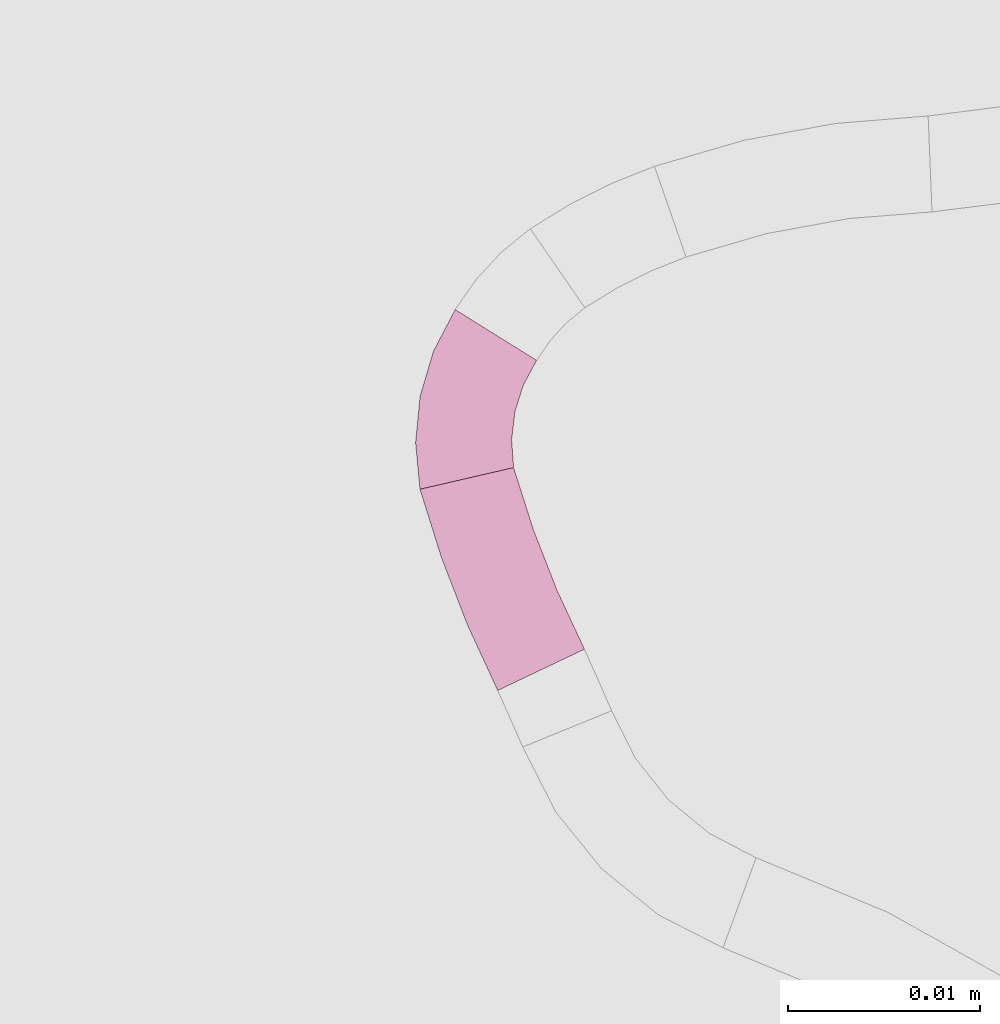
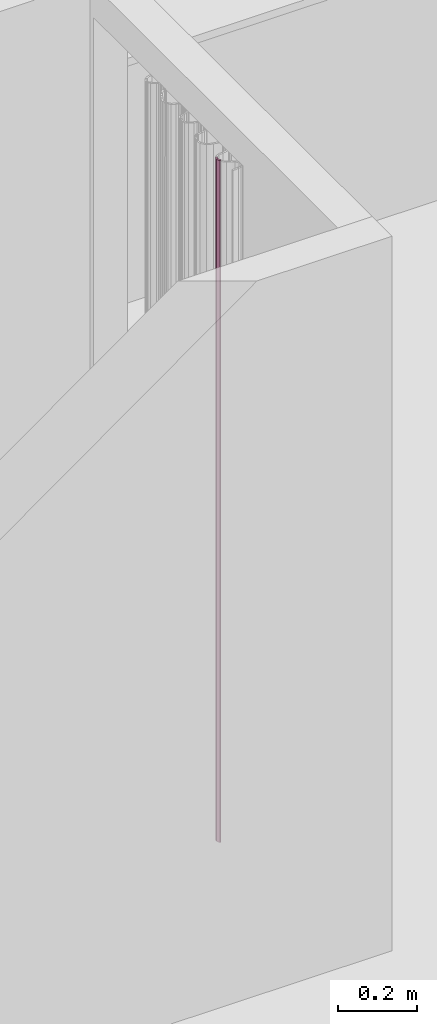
# One storey, part 287 of 418: 2 furnishings.
"""IFC2X3 building model written with IfcOpenShell, lengths in millimetres."""

from ifc_helpers import new_model, entity, si_unit, converted_unit, derived_unit, money_unit, point, direction, frame, frame_2d, origin_with_axes, place, context, subcontext, project, spatial, polyline, circle_curve, parameter, trimmed, segment, composite_curve, outline, extrude, material, type_object, element, save


model = new_model("IFC2X3")

# Units and contexts
model_context = context("Model", 3, precision=0.01, world=origin_with_axes(), true_north=direction((0.0, 1.0)))
body_context = subcontext(model_context, "Body", "Model", "MODEL_VIEW")
ifc_project = project(units=[si_unit("LENGTHUNIT", "METRE", prefix="MILLI"), si_unit("AREAUNIT", "SQUARE_METRE"), si_unit("VOLUMEUNIT", "CUBIC_METRE"), converted_unit("PLANEANGLEUNIT", "DEGREE", entity("IfcPlaneAngleMeasure", 0.0174532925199), si_unit("PLANEANGLEUNIT", "RADIAN"), dimensions=[0, 0, 0, 0, 0, 0, 0]), si_unit("SOLIDANGLEUNIT", "STERADIAN"), money_unit("EUR"), converted_unit("TIMEUNIT", "Year", entity("IfcTimeMeasure", 31556926.0), si_unit("TIMEUNIT", "SECOND"), dimensions=[0, 0, 1, 0, 0, 0, 0]), si_unit("MASSUNIT", "GRAM", prefix="KILO"), si_unit("THERMODYNAMICTEMPERATUREUNIT", "DEGREE_CELSIUS"), si_unit("LUMINOUSINTENSITYUNIT", "LUMEN"), si_unit("ENERGYUNIT", "JOULE", prefix="MEGA"), derived_unit("THERMALCONDUCTANCEUNIT", [(si_unit("POWERUNIT", "WATT"), 1), (si_unit("LENGTHUNIT", "METRE"), -1), (si_unit("THERMODYNAMICTEMPERATUREUNIT", "KELVIN"), -1)]), derived_unit("SPECIFICHEATCAPACITYUNIT", [(si_unit("ENERGYUNIT", "JOULE"), 1), (si_unit("MASSUNIT", "GRAM", prefix="KILO"), -1), (si_unit("THERMODYNAMICTEMPERATUREUNIT", "KELVIN"), -1)]), derived_unit("MASSDENSITYUNIT", [(si_unit("MASSUNIT", "GRAM", prefix="KILO"), 1), (si_unit("VOLUMEUNIT", "CUBIC_METRE"), -1)])], contexts=[model_context])

# Site, building, storey
site_placement = place(None, origin_with_axes())
site = spatial("IfcSite", under=ifc_project, at=site_placement, Name="Paldiski mnt 245/1, Tallinn, Harjumaa", CompositionType="COMPLEX")
building_placement = place(site_placement, origin_with_axes())
building = spatial("IfcBuilding", under=site, at=building_placement, Name="RKAS Hoone üldnimetus (kasutust iseloomustav) -> IFC Project Manager -> SOLIBRI", CompositionType="ELEMENT")
storey_placement = place(building_placement, origin_with_axes())
storey = spatial("IfcBuildingStorey", under=building, at=storey_placement, Name="Esimene korrus", CompositionType="ELEMENT", Elevation=0.0)

# Furnishings
ifc_material = material(Name="KON-00_GENEERILINE - KONSTRUKTSIOON")
furniture_type = type_object("IfcFurnitureType", Name="KON-00_GENEERILINE - KONSTRUKTSIOON 5", AssemblyPlace="NOTDEFINED")
furnishing_1_placement = place(storey_placement, frame((-44064.9338267, -2271.71824978, 0.0), z_axis=(0.0, 0.0, 1.0), x_axis=(0.269330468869, -0.963047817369, 0.0)))
element("IfcFurnishingElement", 1, at=furnishing_1_placement, inside=storey, type_object=furniture_type, material=ifc_material, Name="SS-58", context=body_context, shape_type="SweptSolid", body=[
    extrude(outline(composite_curve([segment(trimmed(circle_curve(frame_2d((0.0, 58.5774671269), x_axis=(0.0, -1.0)), 58.5774671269), [point((0.0, 0.0)), parameter(0.0)], [point((11.1847383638, 1.07771684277)), parameter(11.0076035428)], True, "CARTESIAN"), True, "CONTINUOUS"), segment(polyline([(11.1847383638, 1.07771684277), (10.3327868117, 6.00581601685)]), True, "CONTINUOUS"), segment(trimmed(circle_curve(frame_2d((0.0, 58.5774671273), x_axis=(0.00430397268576, -0.999990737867)), 53.5774671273), [point((10.3327868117, 6.00581601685)), parameter(10.8729593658)], [point((0.230595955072, 5.00049624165)), parameter(0.0)], False, "CARTESIAN"), True, "CONTINUOUS"), segment(polyline([(0.230595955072, 5.00049624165), (0.0, 0.0)]), True, "CONTINUOUS")], self_intersect=False)), origin_with_axes(), (0.0, 0.0, 1.0), 2100.0),
])
furnishing_2_placement = place(storey_placement, frame((-44063.0983285, -2262.35934189, 0.0), z_axis=(0.0, 0.0, 1.0), x_axis=(-0.544982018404, -0.838447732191, 0.0)))
element("IfcFurnishingElement", 2, at=furnishing_2_placement, inside=storey, type_object=furniture_type, material=ifc_material, Name="SS-57", context=body_context, shape_type="SweptSolid", body=[
    extrude(outline(composite_curve([segment(trimmed(circle_curve(frame_2d((0.0, 12.7697665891), x_axis=(0.0, -1.0)), 12.7697665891), [point((0.0, 0.0)), parameter(0.0)], [point((8.84726860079, 3.56146723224)), parameter(43.8544928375)], True, "CARTESIAN"), True, "CONTINUOUS"), segment(polyline([(8.84726860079, 3.56146723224), (5.2459310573, 7.03831998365)]), True, "CONTINUOUS"), segment(trimmed(circle_curve(frame_2d((0.0, 12.7697665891), x_axis=(-0.011574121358, -0.999933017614)), 7.76976658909), [point((5.2459310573, 7.03831998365)), parameter(43.1306936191)], [point((-0.0899282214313, 5.0005204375)), parameter(0.0)], False, "CARTESIAN"), True, "CONTINUOUS"), segment(polyline([(-0.0899282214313, 5.0005204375), (0.0, 0.0)]), True, "CONTINUOUS")], self_intersect=False)), origin_with_axes(), (0.0, 0.0, 1.0), 2100.0),
])

save(model, "model.ifc")
